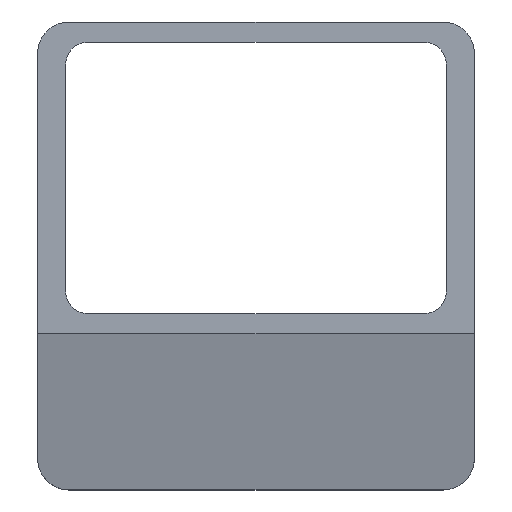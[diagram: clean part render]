
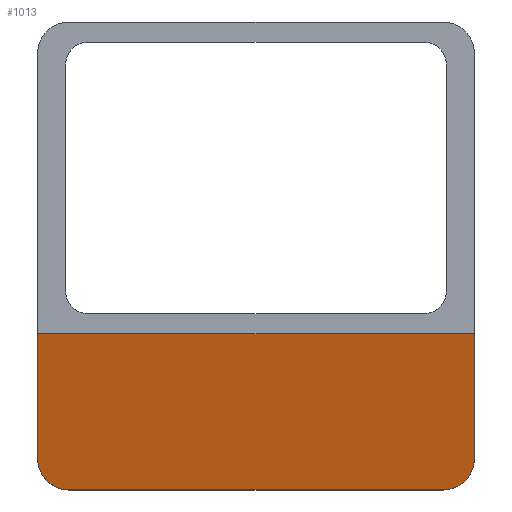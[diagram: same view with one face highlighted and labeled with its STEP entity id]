
A CAD part, top view. The second image highlights one B-rep face of the part: STEP entity #1013.
In plain terms, the highlighted planar face has unit normal (0, -0.242, 0.97).
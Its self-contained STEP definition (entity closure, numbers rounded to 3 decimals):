
#22 = VERTEX_POINT('',#23);
#23 = CARTESIAN_POINT('',(-140.,-50.,71.));
#32 = PLANE('',#33);
#33 = AXIS2_PLACEMENT_3D('',#34,#35,#36);
#34 = CARTESIAN_POINT('',(-140.,-150.,16.8));
#35 = DIRECTION('',(1.,0.,0.));
#36 = DIRECTION('',(0.,0.,1.));
#44 = PLANE('',#45);
#45 = AXIS2_PLACEMENT_3D('',#46,#47,#48);
#46 = CARTESIAN_POINT('',(-140.,-150.,71.));
#47 = DIRECTION('',(0.,0.,1.));
#48 = DIRECTION('',(1.,0.,0.));
#56 = EDGE_CURVE('',#57,#22,#59,.T.);
#57 = VERTEX_POINT('',#58);
#58 = CARTESIAN_POINT('',(-140.,-130.,51.));
#59 = SURFACE_CURVE('',#60,(#64,#70),.PCURVE_S1.);
#60 = LINE('',#61,#62);
#61 = CARTESIAN_POINT('',(-140.,-103.435,57.641));
#62 = VECTOR('',#63,1.);
#63 = DIRECTION('',(-0.,0.97,0.243));
#64 = PCURVE('',#32,#65);
#65 = DEFINITIONAL_REPRESENTATION('',(#66),#69);
#66 = B_SPLINE_CURVE_WITH_KNOTS('',1,(#67,#68),.UNSPECIFIED.,.F.,.F.,(2,
    2),(-27.382,55.08),.PIECEWISE_BEZIER_KNOTS.);
#67 = CARTESIAN_POINT('',(34.2,-20.));
#68 = CARTESIAN_POINT('',(54.2,-100.));
#69 = ( GEOMETRIC_REPRESENTATION_CONTEXT(2) 
PARAMETRIC_REPRESENTATION_CONTEXT() REPRESENTATION_CONTEXT('2D SPACE',''
  ) );
#70 = PCURVE('',#71,#76);
#71 = PLANE('',#72);
#72 = AXIS2_PLACEMENT_3D('',#73,#74,#75);
#73 = CARTESIAN_POINT('',(0.,-50.,71.));
#74 = DIRECTION('',(0.,0.243,-0.97));
#75 = DIRECTION('',(0.,-0.97,-0.243));
#76 = DEFINITIONAL_REPRESENTATION('',(#77),#80);
#77 = B_SPLINE_CURVE_WITH_KNOTS('',1,(#78,#79),.UNSPECIFIED.,.F.,.F.,(2,
    2),(-27.382,55.08),.PIECEWISE_BEZIER_KNOTS.);
#78 = CARTESIAN_POINT('',(82.462,140.));
#79 = CARTESIAN_POINT('',(0.,140.));
#80 = ( GEOMETRIC_REPRESENTATION_CONTEXT(2) 
PARAMETRIC_REPRESENTATION_CONTEXT() REPRESENTATION_CONTEXT('2D SPACE',''
  ) );
#98 = CYLINDRICAL_SURFACE('',#99,20.);
#99 = AXIS2_PLACEMENT_3D('',#100,#101,#102);
#100 = CARTESIAN_POINT('',(-120.,-130.,16.8));
#101 = DIRECTION('',(0.,0.,1.));
#102 = DIRECTION('',(-1.,-0.,0.));
#168 = EDGE_CURVE('',#169,#22,#171,.T.);
#169 = VERTEX_POINT('',#170);
#170 = CARTESIAN_POINT('',(140.,-50.,71.));
#171 = SURFACE_CURVE('',#172,(#176,#183),.PCURVE_S1.);
#172 = LINE('',#173,#174);
#173 = CARTESIAN_POINT('',(280.,-50.,71.));
#174 = VECTOR('',#175,1.);
#175 = DIRECTION('',(-1.,0.,0.));
#176 = PCURVE('',#44,#177);
#177 = DEFINITIONAL_REPRESENTATION('',(#178),#182);
#178 = LINE('',#179,#180);
#179 = CARTESIAN_POINT('',(420.,100.));
#180 = VECTOR('',#181,1.);
#181 = DIRECTION('',(-1.,0.));
#182 = ( GEOMETRIC_REPRESENTATION_CONTEXT(2) 
PARAMETRIC_REPRESENTATION_CONTEXT() REPRESENTATION_CONTEXT('2D SPACE',''
  ) );
#183 = PCURVE('',#71,#184);
#184 = DEFINITIONAL_REPRESENTATION('',(#185),#189);
#185 = LINE('',#186,#187);
#186 = CARTESIAN_POINT('',(0.,-280.));
#187 = VECTOR('',#188,1.);
#188 = DIRECTION('',(-0.,1.));
#189 = ( GEOMETRIC_REPRESENTATION_CONTEXT(2) 
PARAMETRIC_REPRESENTATION_CONTEXT() REPRESENTATION_CONTEXT('2D SPACE',''
  ) );
#207 = PLANE('',#208);
#208 = AXIS2_PLACEMENT_3D('',#209,#210,#211);
#209 = CARTESIAN_POINT('',(140.,-150.,16.8));
#210 = DIRECTION('',(1.,0.,0.));
#211 = DIRECTION('',(0.,0.,1.));
#622 = PLANE('',#623);
#623 = AXIS2_PLACEMENT_3D('',#624,#625,#626);
#624 = CARTESIAN_POINT('',(-140.,-150.,16.8));
#625 = DIRECTION('',(0.,1.,0.));
#626 = DIRECTION('',(0.,0.,1.));
#655 = CYLINDRICAL_SURFACE('',#656,20.);
#656 = AXIS2_PLACEMENT_3D('',#657,#658,#659);
#657 = CARTESIAN_POINT('',(120.,-130.,16.8));
#658 = DIRECTION('',(0.,0.,1.));
#659 = DIRECTION('',(1.,0.,-0.));
#964 = VERTEX_POINT('',#965);
#965 = CARTESIAN_POINT('',(-120.,-150.,46.));
#986 = EDGE_CURVE('',#964,#57,#987,.T.);
#987 = SURFACE_CURVE('',#988,(#993,#1006),.PCURVE_S1.);
#988 = ELLIPSE('',#989,20.616,20.);
#989 = AXIS2_PLACEMENT_3D('',#990,#991,#992);
#990 = CARTESIAN_POINT('',(-120.,-130.,51.));
#991 = DIRECTION('',(0.,0.243,-0.97));
#992 = DIRECTION('',(0.,0.97,0.243));
#993 = PCURVE('',#98,#994);
#994 = DEFINITIONAL_REPRESENTATION('',(#995),#1005);
#995 = B_SPLINE_CURVE_WITH_KNOTS('',8,(#996,#997,#998,#999,#1000,#1001,
    #1002,#1003,#1004),.UNSPECIFIED.,.F.,.F.,(9,9),(3.142,
    4.712),.PIECEWISE_BEZIER_KNOTS.);
#996 = CARTESIAN_POINT('',(1.571,29.2));
#997 = CARTESIAN_POINT('',(1.374,29.2));
#998 = CARTESIAN_POINT('',(1.178,29.42));
#999 = CARTESIAN_POINT('',(0.982,29.861));
#1000 = CARTESIAN_POINT('',(0.785,30.504));
#1001 = CARTESIAN_POINT('',(0.589,31.312));
#1002 = CARTESIAN_POINT('',(0.393,32.237));
#1003 = CARTESIAN_POINT('',(0.196,33.218));
#1004 = CARTESIAN_POINT('',(0.,34.2));
#1005 = ( GEOMETRIC_REPRESENTATION_CONTEXT(2) 
PARAMETRIC_REPRESENTATION_CONTEXT() REPRESENTATION_CONTEXT('2D SPACE',''
  ) );
#1006 = PCURVE('',#71,#1007);
#1007 = DEFINITIONAL_REPRESENTATION('',(#1008),#1012);
#1008 = ELLIPSE('',#1009,20.616,20.);
#1009 = AXIS2_PLACEMENT_2D('',#1010,#1011);
#1010 = CARTESIAN_POINT('',(82.462,120.));
#1011 = DIRECTION('',(-1.,0.));
#1012 = ( GEOMETRIC_REPRESENTATION_CONTEXT(2) 
PARAMETRIC_REPRESENTATION_CONTEXT() REPRESENTATION_CONTEXT('2D SPACE',''
  ) );
#1013 = ADVANCED_FACE('',(#1014),#71,.F.);
#1014 = FACE_BOUND('',#1015,.F.);
#1015 = EDGE_LOOP('',(#1016,#1017,#1038,#1068,#1087,#1088));
#1016 = ORIENTED_EDGE('',*,*,#168,.F.);
#1017 = ORIENTED_EDGE('',*,*,#1018,.F.);
#1018 = EDGE_CURVE('',#1019,#169,#1021,.T.);
#1019 = VERTEX_POINT('',#1020);
#1020 = CARTESIAN_POINT('',(140.,-130.,51.));
#1021 = SURFACE_CURVE('',#1022,(#1026,#1032),.PCURVE_S1.);
#1022 = LINE('',#1023,#1024);
#1023 = CARTESIAN_POINT('',(140.,-103.435,57.641));
#1024 = VECTOR('',#1025,1.);
#1025 = DIRECTION('',(-0.,0.97,0.243));
#1026 = PCURVE('',#71,#1027);
#1027 = DEFINITIONAL_REPRESENTATION('',(#1028),#1031);
#1028 = B_SPLINE_CURVE_WITH_KNOTS('',1,(#1029,#1030),.UNSPECIFIED.,.F.,
  .F.,(2,2),(-27.382,55.08),.PIECEWISE_BEZIER_KNOTS.);
#1029 = CARTESIAN_POINT('',(82.462,-140.));
#1030 = CARTESIAN_POINT('',(0.,-140.));
#1031 = ( GEOMETRIC_REPRESENTATION_CONTEXT(2) 
PARAMETRIC_REPRESENTATION_CONTEXT() REPRESENTATION_CONTEXT('2D SPACE',''
  ) );
#1032 = PCURVE('',#207,#1033);
#1033 = DEFINITIONAL_REPRESENTATION('',(#1034),#1037);
#1034 = B_SPLINE_CURVE_WITH_KNOTS('',1,(#1035,#1036),.UNSPECIFIED.,.F.,
  .F.,(2,2),(-27.382,55.08),.PIECEWISE_BEZIER_KNOTS.);
#1035 = CARTESIAN_POINT('',(34.2,-20.));
#1036 = CARTESIAN_POINT('',(54.2,-100.));
#1037 = ( GEOMETRIC_REPRESENTATION_CONTEXT(2) 
PARAMETRIC_REPRESENTATION_CONTEXT() REPRESENTATION_CONTEXT('2D SPACE',''
  ) );
#1038 = ORIENTED_EDGE('',*,*,#1039,.T.);
#1039 = EDGE_CURVE('',#1019,#1040,#1042,.T.);
#1040 = VERTEX_POINT('',#1041);
#1041 = CARTESIAN_POINT('',(120.,-150.,46.));
#1042 = SURFACE_CURVE('',#1043,(#1048,#1055),.PCURVE_S1.);
#1043 = ELLIPSE('',#1044,20.616,20.);
#1044 = AXIS2_PLACEMENT_3D('',#1045,#1046,#1047);
#1045 = CARTESIAN_POINT('',(120.,-130.,51.));
#1046 = DIRECTION('',(0.,0.243,-0.97));
#1047 = DIRECTION('',(0.,0.97,0.243));
#1048 = PCURVE('',#71,#1049);
#1049 = DEFINITIONAL_REPRESENTATION('',(#1050),#1054);
#1050 = ELLIPSE('',#1051,20.616,20.);
#1051 = AXIS2_PLACEMENT_2D('',#1052,#1053);
#1052 = CARTESIAN_POINT('',(82.462,-120.));
#1053 = DIRECTION('',(-1.,0.));
#1054 = ( GEOMETRIC_REPRESENTATION_CONTEXT(2) 
PARAMETRIC_REPRESENTATION_CONTEXT() REPRESENTATION_CONTEXT('2D SPACE',''
  ) );
#1055 = PCURVE('',#655,#1056);
#1056 = DEFINITIONAL_REPRESENTATION('',(#1057),#1067);
#1057 = B_SPLINE_CURVE_WITH_KNOTS('',8,(#1058,#1059,#1060,#1061,#1062,
    #1063,#1064,#1065,#1066),.UNSPECIFIED.,.F.,.F.,(9,9),(1.571
    ,3.142),.PIECEWISE_BEZIER_KNOTS.);
#1058 = CARTESIAN_POINT('',(0.,34.2));
#1059 = CARTESIAN_POINT('',(-0.196,33.218));
#1060 = CARTESIAN_POINT('',(-0.393,32.237));
#1061 = CARTESIAN_POINT('',(-0.589,31.312));
#1062 = CARTESIAN_POINT('',(-0.785,30.504));
#1063 = CARTESIAN_POINT('',(-0.982,29.861));
#1064 = CARTESIAN_POINT('',(-1.178,29.42));
#1065 = CARTESIAN_POINT('',(-1.374,29.2));
#1066 = CARTESIAN_POINT('',(-1.571,29.2));
#1067 = ( GEOMETRIC_REPRESENTATION_CONTEXT(2) 
PARAMETRIC_REPRESENTATION_CONTEXT() REPRESENTATION_CONTEXT('2D SPACE',''
  ) );
#1068 = ORIENTED_EDGE('',*,*,#1069,.T.);
#1069 = EDGE_CURVE('',#1040,#964,#1070,.T.);
#1070 = SURFACE_CURVE('',#1071,(#1075,#1081),.PCURVE_S1.);
#1071 = LINE('',#1072,#1073);
#1072 = CARTESIAN_POINT('',(-70.,-150.,46.));
#1073 = VECTOR('',#1074,1.);
#1074 = DIRECTION('',(-1.,0.,0.));
#1075 = PCURVE('',#71,#1076);
#1076 = DEFINITIONAL_REPRESENTATION('',(#1077),#1080);
#1077 = B_SPLINE_CURVE_WITH_KNOTS('',1,(#1078,#1079),.UNSPECIFIED.,.F.,
  .F.,(2,2),(-190.,50.),.PIECEWISE_BEZIER_KNOTS.);
#1078 = CARTESIAN_POINT('',(103.078,-120.));
#1079 = CARTESIAN_POINT('',(103.078,120.));
#1080 = ( GEOMETRIC_REPRESENTATION_CONTEXT(2) 
PARAMETRIC_REPRESENTATION_CONTEXT() REPRESENTATION_CONTEXT('2D SPACE',''
  ) );
#1081 = PCURVE('',#622,#1082);
#1082 = DEFINITIONAL_REPRESENTATION('',(#1083),#1086);
#1083 = B_SPLINE_CURVE_WITH_KNOTS('',1,(#1084,#1085),.UNSPECIFIED.,.F.,
  .F.,(2,2),(-190.,50.),.PIECEWISE_BEZIER_KNOTS.);
#1084 = CARTESIAN_POINT('',(29.2,260.));
#1085 = CARTESIAN_POINT('',(29.2,20.));
#1086 = ( GEOMETRIC_REPRESENTATION_CONTEXT(2) 
PARAMETRIC_REPRESENTATION_CONTEXT() REPRESENTATION_CONTEXT('2D SPACE',''
  ) );
#1087 = ORIENTED_EDGE('',*,*,#986,.T.);
#1088 = ORIENTED_EDGE('',*,*,#56,.T.);
